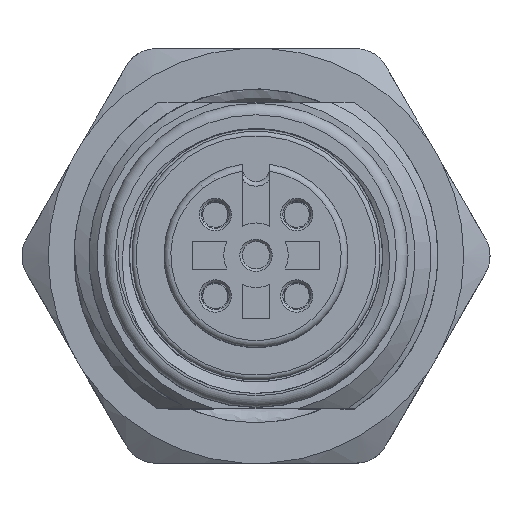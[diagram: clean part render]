
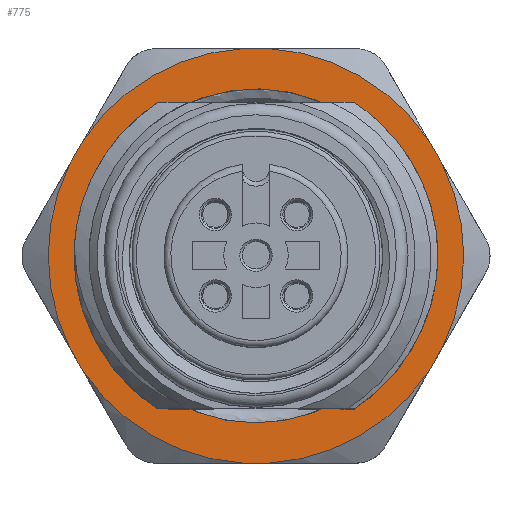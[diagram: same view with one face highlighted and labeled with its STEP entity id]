
A CAD part, top view. The second image highlights one B-rep face of the part: STEP entity #775.
In plain terms, the highlighted planar face has unit normal (0, 0, 1).
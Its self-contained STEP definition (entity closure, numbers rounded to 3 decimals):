
#775=ADVANCED_FACE('',(#1801,#1802),#1269,.T.);
#1269=PLANE('',#9051);
#1539=B_SPLINE_CURVE_WITH_KNOTS('',3,(#12101,#12102,#12103,#12104),
 .UNSPECIFIED.,.F.,.F.,(4,4),(0.,1.),.UNSPECIFIED.);
#1801=FACE_BOUND('',#1996,.T.);
#1802=FACE_BOUND('',#1997,.T.);
#1996=EDGE_LOOP('',(#2912,#2913,#2914));
#1997=EDGE_LOOP('',(#2915,#2916,#2917,#2918,#2919,#2920,#2921,#2922,#2923,
#2924,#2925,#2926));
#2606=CIRCLE('',#9043,7.25);
#2607=CIRCLE('',#9045,9.02);
#2608=CIRCLE('',#9046,9.02);
#2609=CIRCLE('',#9047,9.02);
#2610=CIRCLE('',#9048,9.02);
#2611=CIRCLE('',#9049,9.02);
#2612=CIRCLE('',#9050,9.02);
#2912=ORIENTED_EDGE('',*,*,#6319,.F.);
#2913=ORIENTED_EDGE('',*,*,#6328,.T.);
#2914=ORIENTED_EDGE('',*,*,#6322,.F.);
#2915=ORIENTED_EDGE('',*,*,#6329,.F.);
#2916=ORIENTED_EDGE('',*,*,#6330,.T.);
#2917=ORIENTED_EDGE('',*,*,#6331,.F.);
#2918=ORIENTED_EDGE('',*,*,#6332,.T.);
#2919=ORIENTED_EDGE('',*,*,#6333,.F.);
#2920=ORIENTED_EDGE('',*,*,#6334,.T.);
#2921=ORIENTED_EDGE('',*,*,#6335,.F.);
#2922=ORIENTED_EDGE('',*,*,#6336,.T.);
#2923=ORIENTED_EDGE('',*,*,#6337,.F.);
#2924=ORIENTED_EDGE('',*,*,#6338,.T.);
#2925=ORIENTED_EDGE('',*,*,#6339,.F.);
#2926=ORIENTED_EDGE('',*,*,#6340,.T.);
#5451=VERTEX_POINT('',#12053);
#5452=VERTEX_POINT('',#12055);
#5453=VERTEX_POINT('',#12105);
#5456=VERTEX_POINT('',#12448);
#5457=VERTEX_POINT('',#12449);
#5458=VERTEX_POINT('',#12451);
#5459=VERTEX_POINT('',#12453);
#5460=VERTEX_POINT('',#12455);
#5461=VERTEX_POINT('',#12457);
#5462=VERTEX_POINT('',#12459);
#5463=VERTEX_POINT('',#12461);
#5464=VERTEX_POINT('',#12463);
#5465=VERTEX_POINT('',#12465);
#5466=VERTEX_POINT('',#12467);
#5467=VERTEX_POINT('',#12469);
#6319=EDGE_CURVE('',#5451,#5452,#2606,.T.);
#6322=EDGE_CURVE('',#5452,#5453,#1539,.T.);
#6328=EDGE_CURVE('',#5451,#5453,#7583,.T.);
#6329=EDGE_CURVE('',#5456,#5457,#2607,.T.);
#6330=EDGE_CURVE('',#5456,#5458,#7584,.T.);
#6331=EDGE_CURVE('',#5459,#5458,#2608,.T.);
#6332=EDGE_CURVE('',#5459,#5460,#7585,.T.);
#6333=EDGE_CURVE('',#5461,#5460,#2609,.T.);
#6334=EDGE_CURVE('',#5461,#5462,#7586,.T.);
#6335=EDGE_CURVE('',#5463,#5462,#2610,.T.);
#6336=EDGE_CURVE('',#5463,#5464,#7587,.T.);
#6337=EDGE_CURVE('',#5465,#5464,#2611,.T.);
#6338=EDGE_CURVE('',#5465,#5466,#7588,.T.);
#6339=EDGE_CURVE('',#5467,#5466,#2612,.T.);
#6340=EDGE_CURVE('',#5467,#5457,#7589,.T.);
#7583=LINE('',#12446,#8312);
#7584=LINE('',#12450,#8313);
#7585=LINE('',#12454,#8314);
#7586=LINE('',#12458,#8315);
#7587=LINE('',#12462,#8316);
#7588=LINE('',#12466,#8317);
#7589=LINE('',#12470,#8318);
#8312=VECTOR('',#9800,1.);
#8313=VECTOR('',#9803,1.);
#8314=VECTOR('',#9806,1.);
#8315=VECTOR('',#9809,1.);
#8316=VECTOR('',#9812,1.);
#8317=VECTOR('',#9815,1.);
#8318=VECTOR('',#9818,1.);
#9043=AXIS2_PLACEMENT_3D('',#12054,#9796,#9797);
#9045=AXIS2_PLACEMENT_3D('',#12447,#9801,#9802);
#9046=AXIS2_PLACEMENT_3D('',#12452,#9804,#9805);
#9047=AXIS2_PLACEMENT_3D('',#12456,#9807,#9808);
#9048=AXIS2_PLACEMENT_3D('',#12460,#9810,#9811);
#9049=AXIS2_PLACEMENT_3D('',#12464,#9813,#9814);
#9050=AXIS2_PLACEMENT_3D('',#12468,#9816,#9817);
#9051=AXIS2_PLACEMENT_3D('',#12471,#9819,#9820);
#9796=DIRECTION('',(0.,0.,1.));
#9797=DIRECTION('',(1.,0.,0.));
#9800=DIRECTION('',(-0.985,0.175,0.));
#9801=DIRECTION('',(0.,0.,-1.));
#9802=DIRECTION('',(-1.,0.,0.));
#9803=DIRECTION('',(-0.5,-0.866,0.));
#9804=DIRECTION('',(0.,0.,-1.));
#9805=DIRECTION('',(-1.,0.,0.));
#9806=DIRECTION('',(0.5,-0.866,0.));
#9807=DIRECTION('',(0.,0.,-1.));
#9808=DIRECTION('',(-1.,0.,0.));
#9809=DIRECTION('',(1.,0.,0.));
#9810=DIRECTION('',(0.,0.,-1.));
#9811=DIRECTION('',(-1.,0.,0.));
#9812=DIRECTION('',(0.5,0.866,0.));
#9813=DIRECTION('',(0.,0.,-1.));
#9814=DIRECTION('',(-1.,0.,0.));
#9815=DIRECTION('',(-0.5,0.866,0.));
#9816=DIRECTION('',(0.,0.,-1.));
#9817=DIRECTION('',(-1.,0.,0.));
#9818=DIRECTION('',(-1.,0.,0.));
#9819=DIRECTION('',(0.,0.,1.));
#9820=DIRECTION('',(-1.,0.,0.));
#12053=CARTESIAN_POINT('',(-7.138,1.271,12.5));
#12054=CARTESIAN_POINT('',(0.,0.,12.5));
#12055=CARTESIAN_POINT('',(-6.735,2.685,12.5));
#12101=CARTESIAN_POINT('',(-6.735,2.685,12.5));
#12102=CARTESIAN_POINT('',(-6.943,2.238,12.5));
#12103=CARTESIAN_POINT('',(-7.106,1.766,12.5));
#12104=CARTESIAN_POINT('',(-7.22,1.286,12.5));
#12105=CARTESIAN_POINT('',(-7.22,1.286,12.5));
#12446=CARTESIAN_POINT('',(0.,0.,12.5));
#12447=CARTESIAN_POINT('',(0.,0.,12.5));
#12448=CARTESIAN_POINT('',(-7.497,5.015,12.5));
#12449=CARTESIAN_POINT('',(-0.595,9.,12.5));
#12450=CARTESIAN_POINT('',(-5.052,9.25,12.5));
#12451=CARTESIAN_POINT('',(-8.092,3.985,12.5));
#12452=CARTESIAN_POINT('',(0.,0.,12.5));
#12453=CARTESIAN_POINT('',(-8.092,-3.985,12.5));
#12454=CARTESIAN_POINT('',(-10.537,0.25,12.5));
#12455=CARTESIAN_POINT('',(-7.497,-5.015,12.5));
#12456=CARTESIAN_POINT('',(0.,0.,12.5));
#12457=CARTESIAN_POINT('',(-0.595,-9.,12.5));
#12458=CARTESIAN_POINT('',(-5.485,-9.,12.5));
#12459=CARTESIAN_POINT('',(0.595,-9.,12.5));
#12460=CARTESIAN_POINT('',(0.,0.,12.5));
#12461=CARTESIAN_POINT('',(7.497,-5.015,12.5));
#12462=CARTESIAN_POINT('',(5.052,-9.25,12.5));
#12463=CARTESIAN_POINT('',(8.092,-3.985,12.5));
#12464=CARTESIAN_POINT('',(0.,0.,12.5));
#12465=CARTESIAN_POINT('',(8.092,3.985,12.5));
#12466=CARTESIAN_POINT('',(10.537,-0.25,12.5));
#12467=CARTESIAN_POINT('',(7.497,5.015,12.5));
#12468=CARTESIAN_POINT('',(0.,0.,12.5));
#12469=CARTESIAN_POINT('',(0.595,9.,12.5));
#12470=CARTESIAN_POINT('',(5.485,9.,12.5));
#12471=CARTESIAN_POINT('',(0.,0.,12.5));
